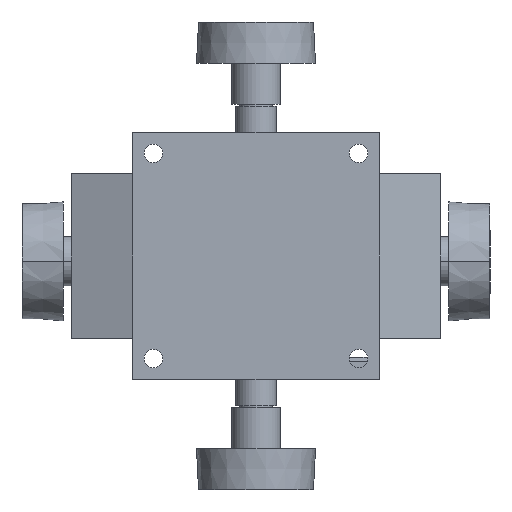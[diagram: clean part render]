
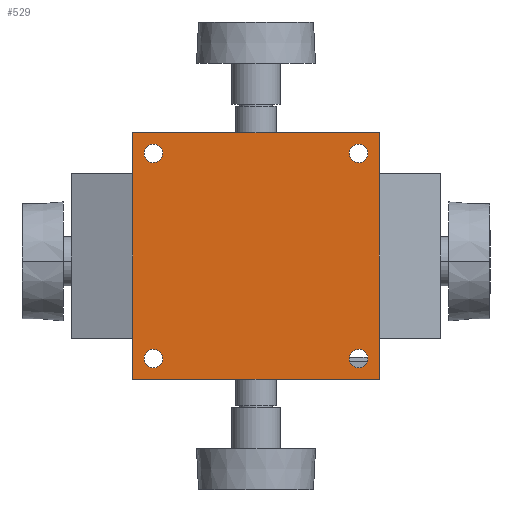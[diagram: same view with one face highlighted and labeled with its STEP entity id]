
A CAD part, front view. The second image highlights one B-rep face of the part: STEP entity #529.
In plain terms, the highlighted planar face has unit normal (0, -1, 0).
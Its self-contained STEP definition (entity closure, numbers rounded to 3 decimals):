
#213 = EDGE_CURVE ( 'NONE', #214, #215, #2810, .T. ) ;
#214 = VERTEX_POINT ( 'NONE', #2805 ) ;
#215 = VERTEX_POINT ( 'NONE', #2804 ) ;
#274 = EDGE_CURVE ( 'NONE', #275, #276, #2896, .T. ) ;
#275 = VERTEX_POINT ( 'NONE', #2891 ) ;
#276 = VERTEX_POINT ( 'NONE', #2892 ) ;
#285 = ORIENTED_EDGE ( 'NONE', *, *, #328, .T. ) ;
#286 = ORIENTED_EDGE ( 'NONE', *, *, #336, .T. ) ;
#290 = EDGE_CURVE ( 'NONE', #291, #292, #2937, .T. ) ;
#291 = VERTEX_POINT ( 'NONE', #2932 ) ;
#292 = VERTEX_POINT ( 'NONE', #2931 ) ;
#328 = EDGE_CURVE ( 'NONE', #329, #347, #3023, .T. ) ;
#329 = VERTEX_POINT ( 'NONE', #2860 ) ;
#336 = EDGE_CURVE ( 'NONE', #393, #392, #2852, .T. ) ;
#337 = ORIENTED_EDGE ( 'NONE', *, *, #391, .T. ) ;
#338 = EDGE_LOOP ( 'NONE', ( #462, #426, #427, #415 ) ) ;
#347 = VERTEX_POINT ( 'NONE', #3063 ) ;
#391 = EDGE_CURVE ( 'NONE', #392, #393, #3476, .T. ) ;
#392 = VERTEX_POINT ( 'NONE', #3409 ) ;
#393 = VERTEX_POINT ( 'NONE', #3408 ) ;
#411 = EDGE_CURVE ( 'NONE', #412, #466, #3506, .T. ) ;
#412 = VERTEX_POINT ( 'NONE', #3502 ) ;
#415 = ORIENTED_EDGE ( 'NONE', *, *, #418, .T. ) ;
#418 = EDGE_CURVE ( 'NONE', #466, #275, #3607, .T. ) ;
#426 = ORIENTED_EDGE ( 'NONE', *, *, #437, .T. ) ;
#427 = ORIENTED_EDGE ( 'NONE', *, *, #411, .T. ) ;
#437 = EDGE_CURVE ( 'NONE', #276, #412, #3544, .T. ) ;
#462 = ORIENTED_EDGE ( 'NONE', *, *, #274, .T. ) ;
#466 = VERTEX_POINT ( 'NONE', #3419 ) ;
#468 = EDGE_LOOP ( 'NONE', ( #286, #337 ) ) ;
#469 = ORIENTED_EDGE ( 'NONE', *, *, #290, .T. ) ;
#470 = ORIENTED_EDGE ( 'NONE', *, *, #499, .T. ) ;
#471 = EDGE_LOOP ( 'NONE', ( #496, #498 ) ) ;
#472 = ORIENTED_EDGE ( 'NONE', *, *, #473, .T. ) ;
#473 = EDGE_CURVE ( 'NONE', #292, #291, #3418, .T. ) ;
#496 = ORIENTED_EDGE ( 'NONE', *, *, #497, .T. ) ;
#497 = EDGE_CURVE ( 'NONE', #215, #214, #3574, .T. ) ;
#498 = ORIENTED_EDGE ( 'NONE', *, *, #213, .T. ) ;
#499 = EDGE_CURVE ( 'NONE', #347, #329, #3569, .T. ) ;
#527 = EDGE_LOOP ( 'NONE', ( #472, #469 ) ) ;
#529 = ADVANCED_FACE ( 'NONE', ( #3769, #3768, #3767, #3766, #3765 ), #3774, .F. ) ;
#532 = EDGE_LOOP ( 'NONE', ( #470, #285 ) ) ;
#2536 = DIRECTION ( 'NONE',  ( -1., 0., 0. ) ) ;
#2804 = CARTESIAN_POINT ( 'NONE',  ( -27.25, 0., 25. ) ) ;
#2805 = CARTESIAN_POINT ( 'NONE',  ( -22.75, 0., 25. ) ) ;
#2806 = DIRECTION ( 'NONE',  ( -1., 0., 0. ) ) ;
#2807 = DIRECTION ( 'NONE',  ( 0., 1., 0. ) ) ;
#2808 = CARTESIAN_POINT ( 'NONE',  ( -25., 0., 25. ) ) ;
#2809 = AXIS2_PLACEMENT_3D ( 'NONE', #2808, #2807, #2806 ) ;
#2810 = CIRCLE ( 'NONE', #2809, 2.25 ) ;
#2848 = DIRECTION ( 'NONE',  ( -1., 0., 0. ) ) ;
#2849 = DIRECTION ( 'NONE',  ( 0., 1., 0. ) ) ;
#2850 = CARTESIAN_POINT ( 'NONE',  ( -25., 0., -25. ) ) ;
#2851 = AXIS2_PLACEMENT_3D ( 'NONE', #2850, #2849, #2848 ) ;
#2852 = CIRCLE ( 'NONE', #2851, 2.25 ) ;
#2860 = CARTESIAN_POINT ( 'NONE',  ( 27.25, 0., -25. ) ) ;
#2891 = CARTESIAN_POINT ( 'NONE',  ( 30., 0., -30. ) ) ;
#2892 = CARTESIAN_POINT ( 'NONE',  ( 30., 0., 30. ) ) ;
#2893 = DIRECTION ( 'NONE',  ( 0., 0., 1. ) ) ;
#2894 = VECTOR ( 'NONE', #2893, 1000. ) ;
#2895 = CARTESIAN_POINT ( 'NONE',  ( 30., 0., 30. ) ) ;
#2896 = LINE ( 'NONE', #2895, #2894 ) ;
#2931 = CARTESIAN_POINT ( 'NONE',  ( 22.75, 0., 25. ) ) ;
#2932 = CARTESIAN_POINT ( 'NONE',  ( 27.25, 0., 25. ) ) ;
#2933 = DIRECTION ( 'NONE',  ( -1., 0., 0. ) ) ;
#2934 = DIRECTION ( 'NONE',  ( 0., 1., 0. ) ) ;
#2935 = CARTESIAN_POINT ( 'NONE',  ( 25., 0., 25. ) ) ;
#2936 = AXIS2_PLACEMENT_3D ( 'NONE', #2935, #2934, #2933 ) ;
#2937 = CIRCLE ( 'NONE', #2936, 2.25 ) ;
#3019 = DIRECTION ( 'NONE',  ( -1., 0., 0. ) ) ;
#3020 = DIRECTION ( 'NONE',  ( 0., 1., 0. ) ) ;
#3021 = CARTESIAN_POINT ( 'NONE',  ( 25., 0., -25. ) ) ;
#3022 = AXIS2_PLACEMENT_3D ( 'NONE', #3021, #3020, #3019 ) ;
#3023 = CIRCLE ( 'NONE', #3022, 2.25 ) ;
#3063 = CARTESIAN_POINT ( 'NONE',  ( 22.75, 0., -25. ) ) ;
#3408 = CARTESIAN_POINT ( 'NONE',  ( -27.25, 0., -25. ) ) ;
#3409 = CARTESIAN_POINT ( 'NONE',  ( -22.75, 0., -25. ) ) ;
#3414 = DIRECTION ( 'NONE',  ( -1., 0., 0. ) ) ;
#3415 = DIRECTION ( 'NONE',  ( 0., 1., 0. ) ) ;
#3416 = CARTESIAN_POINT ( 'NONE',  ( 25., 0., 25. ) ) ;
#3417 = AXIS2_PLACEMENT_3D ( 'NONE', #3416, #3415, #3414 ) ;
#3418 = CIRCLE ( 'NONE', #3417, 2.25 ) ;
#3419 = CARTESIAN_POINT ( 'NONE',  ( -30., 0., -30. ) ) ;
#3472 = DIRECTION ( 'NONE',  ( -1., 0., 0. ) ) ;
#3473 = DIRECTION ( 'NONE',  ( 0., 1., 0. ) ) ;
#3474 = CARTESIAN_POINT ( 'NONE',  ( -25., 0., -25. ) ) ;
#3475 = AXIS2_PLACEMENT_3D ( 'NONE', #3474, #3473, #3472 ) ;
#3476 = CIRCLE ( 'NONE', #3475, 2.25 ) ;
#3502 = CARTESIAN_POINT ( 'NONE',  ( -30., 0., 30. ) ) ;
#3503 = DIRECTION ( 'NONE',  ( 0., 0., -1. ) ) ;
#3504 = VECTOR ( 'NONE', #3503, 1000. ) ;
#3505 = CARTESIAN_POINT ( 'NONE',  ( -30., 0., 30. ) ) ;
#3506 = LINE ( 'NONE', #3505, #3504 ) ;
#3541 = DIRECTION ( 'NONE',  ( -1., 0., 0. ) ) ;
#3542 = VECTOR ( 'NONE', #3541, 1000. ) ;
#3543 = CARTESIAN_POINT ( 'NONE',  ( 30., 0., 30. ) ) ;
#3544 = LINE ( 'NONE', #3543, #3542 ) ;
#3566 = DIRECTION ( 'NONE',  ( 0., 1., 0. ) ) ;
#3567 = CARTESIAN_POINT ( 'NONE',  ( 25., 0., -25. ) ) ;
#3568 = AXIS2_PLACEMENT_3D ( 'NONE', #3567, #3566, #2536 ) ;
#3569 = CIRCLE ( 'NONE', #3568, 2.25 ) ;
#3571 = DIRECTION ( 'NONE',  ( -1., 0., 0. ) ) ;
#3572 = DIRECTION ( 'NONE',  ( 0., 1., 0. ) ) ;
#3573 = AXIS2_PLACEMENT_3D ( 'NONE', #3578, #3572, #3571 ) ;
#3574 = CIRCLE ( 'NONE', #3573, 2.25 ) ;
#3578 = CARTESIAN_POINT ( 'NONE',  ( -25., 0., 25. ) ) ;
#3604 = DIRECTION ( 'NONE',  ( 1., 0., 0. ) ) ;
#3605 = VECTOR ( 'NONE', #3604, 1000. ) ;
#3606 = CARTESIAN_POINT ( 'NONE',  ( 30., 0., -30. ) ) ;
#3607 = LINE ( 'NONE', #3606, #3605 ) ;
#3761 = DIRECTION ( 'NONE',  ( -1., 0., 0. ) ) ;
#3762 = DIRECTION ( 'NONE',  ( 0., 1., 0. ) ) ;
#3763 = CARTESIAN_POINT ( 'NONE',  ( 30., 0., 30. ) ) ;
#3764 = AXIS2_PLACEMENT_3D ( 'NONE', #3763, #3762, #3761 ) ;
#3765 = FACE_OUTER_BOUND ( 'NONE', #338, .T. ) ;
#3766 = FACE_BOUND ( 'NONE', #468, .T. ) ;
#3767 = FACE_BOUND ( 'NONE', #532, .T. ) ;
#3768 = FACE_BOUND ( 'NONE', #527, .T. ) ;
#3769 = FACE_BOUND ( 'NONE', #471, .T. ) ;
#3774 = PLANE ( 'NONE',  #3764 ) ;
